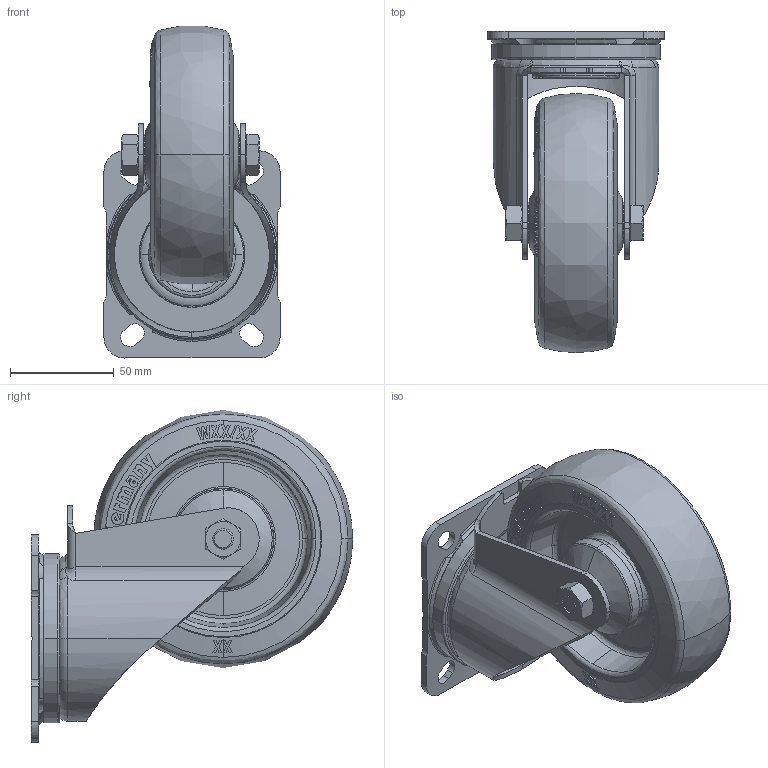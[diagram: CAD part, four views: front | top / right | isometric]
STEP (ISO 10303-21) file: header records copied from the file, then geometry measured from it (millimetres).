
FILE_DESCRIPTION (( 'STEP AP214' ), '1' );
FILE_NAME ('LKX-POBS_125XKA-1_915891-214.step', '2017-06-20T10:27:37', ( '' ), ( '' ), 'SwSTEP 2.0', 'SolidWorks 2010', '' );
FILE_SCHEMA (( 'AUTOMOTIVE_DESIGN' ));
Length unit declared in the file: millimetre
Products named in the file (4): AM_LKR_10x52x2,5_R; GH-LKX_125-1_G15; POBS_125_10XKA_856776; LKX-POBS_125XKA-1_915891-214
Assembly tree (3 placements, depth 2):
  LKX-POBS_125XKA-1_915891-214
    POBS_125_10XKA_856776
    AM_LKR_10x52x2,5_R
    GH-LKX_125-1_G15
Bounding box: 85 x 155 x 160.25 mm (x, y, z)
Volume: 434300.4 mm3; surface area: 121680.9 mm2
Topology: 3 solids, 8 shells, 1198 faces, 3162 edges, 2050 vertices
Faces by surface type: plane 490, bspline 369, cone 143, cylinder 140, torus 56
Entity records: 67490 total; most frequent: CARTESIAN_POINT 27671, ORIENTED_EDGE 6322, DIRECTION 4248, EDGE_CURVE 3161, VERTEX_POINT 2050, AXIS2_PLACEMENT_3D 1475, LINE 1298, VECTOR 1298
